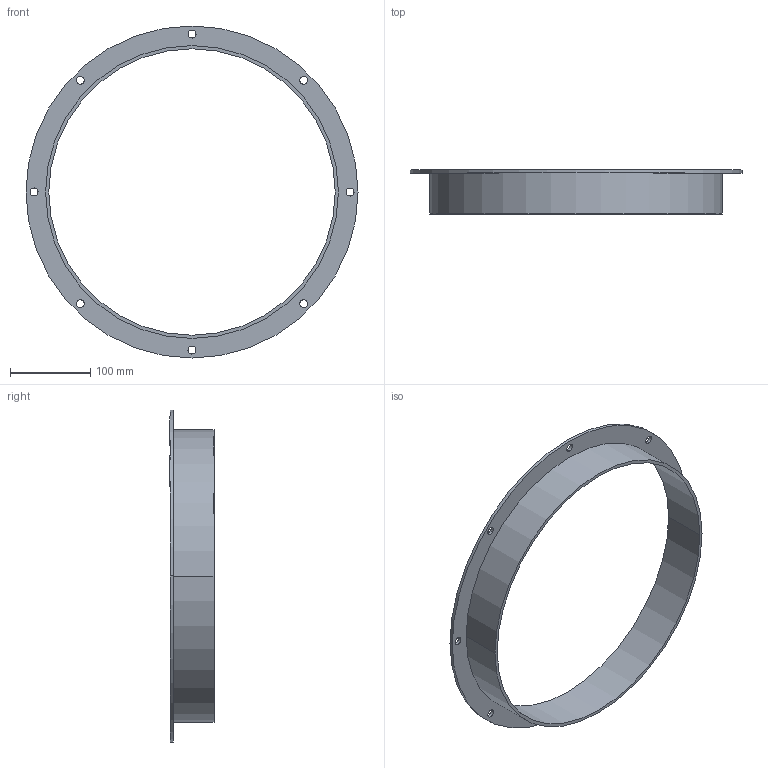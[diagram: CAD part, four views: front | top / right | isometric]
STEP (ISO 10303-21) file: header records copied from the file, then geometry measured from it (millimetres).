
FILE_DESCRIPTION(('STEP AP214'),'1');
FILE_NAME('accessory_5136842100.stp','2017-10-09T07:16:04',('TraceParts'),('TraceParts S.A.'),'Spatial InterOp 3D',' ',' ');
FILE_SCHEMA(('automotive_design'));
Length unit declared in the file: millimetre
Products named in the file (1): accessory_5136842100
Bounding box: 415 x 55 x 415 mm (x, y, z)
Volume: 367908.8 mm3; surface area: 194673.5 mm2
Topology: 1 solids, 1 shells, 25 faces, 66 edges, 44 vertices
Faces by surface type: cylinder 22, plane 3
Entity records: 1056 total; most frequent: DIRECTION 162, CARTESIAN_POINT 136, ORIENTED_EDGE 132, AXIS2_PLACEMENT_3D 70, EDGE_CURVE 66, EDGE_LOOP 44, VERTEX_POINT 44, CIRCLE 44
